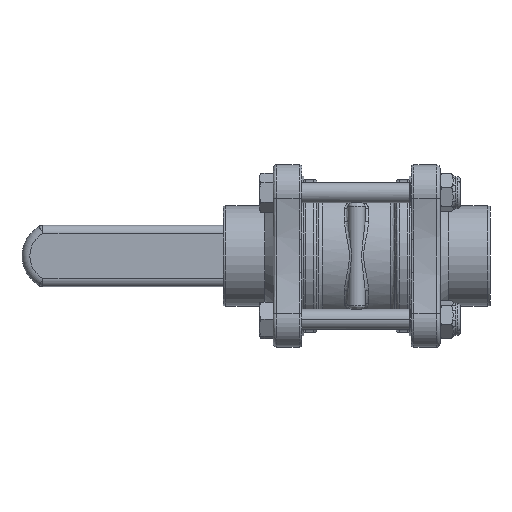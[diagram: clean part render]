
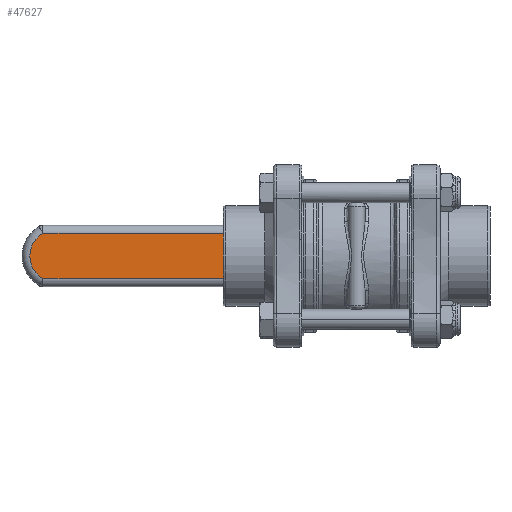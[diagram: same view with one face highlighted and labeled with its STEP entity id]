
A CAD part, front view. The second image highlights one B-rep face of the part: STEP entity #47627.
In plain terms, the highlighted planar face has unit normal (0, -1, 0).
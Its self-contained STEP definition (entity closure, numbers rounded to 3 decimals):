
#21930 = LINE ( 'NONE', #57054, #21937 ) ;
#21937 = VECTOR ( 'NONE', #57055, 1000. ) ;
#21940 = LINE ( 'NONE', #57046, #21948 ) ;
#21944 = CIRCLE ( 'NONE', #80501, 7.75 ) ;
#21948 = VECTOR ( 'NONE', #57045, 1000. ) ;
#36633 = EDGE_CURVE ( 'NONE', #64797, #64801, #42847, .T. ) ;
#42847 = LINE ( 'NONE', #45041, #42853 ) ;
#42853 = VECTOR ( 'NONE', #45037, 1000. ) ;
#43634 = FACE_OUTER_BOUND ( 'NONE', #47900, .T. ) ;
#45037 = DIRECTION ( 'NONE',  ( 0., 0., -1. ) ) ;
#45041 = CARTESIAN_POINT ( 'NONE',  ( 0., -2.5, -6.7 ) ) ;
#47417 = ORIENTED_EDGE ( 'NONE', *, *, #49298, .F. ) ;
#47419 = ORIENTED_EDGE ( 'NONE', *, *, #49299, .T. ) ;
#47421 = ORIENTED_EDGE ( 'NONE', *, *, #49296, .T. ) ;
#47423 = ORIENTED_EDGE ( 'NONE', *, *, #36633, .T. ) ;
#47627 = ADVANCED_FACE ( 'NONE', ( #43634 ), #70153, .F. ) ;
#47900 = EDGE_LOOP ( 'NONE', ( #47417, #47419, #47421, #47423 ) ) ;
#49296 = EDGE_CURVE ( 'NONE', #64820, #64797, #21930, .T. ) ;
#49298 = EDGE_CURVE ( 'NONE', #64821, #64801, #21940, .T. ) ;
#49299 = EDGE_CURVE ( 'NONE', #64821, #64820, #21944, .T. ) ;
#57045 = DIRECTION ( 'NONE',  ( -1., 0., 0. ) ) ;
#57046 = CARTESIAN_POINT ( 'NONE',  ( 62., -2.5, -6.7 ) ) ;
#57054 = CARTESIAN_POINT ( 'NONE',  ( 62., -2.5, 6.7 ) ) ;
#57055 = DIRECTION ( 'NONE',  ( -1., 0., 0. ) ) ;
#57063 = CARTESIAN_POINT ( 'NONE',  ( 51.95, -2.5, 0. ) ) ;
#57064 = DIRECTION ( 'NONE',  ( 0., -1., 0. ) ) ;
#57065 = DIRECTION ( 'NONE',  ( 0., 0., 1. ) ) ;
#59431 = CARTESIAN_POINT ( 'NONE',  ( 0., -2.5, 6.7 ) ) ;
#59439 = CARTESIAN_POINT ( 'NONE',  ( 0., -2.5, -6.7 ) ) ;
#59477 = CARTESIAN_POINT ( 'NONE',  ( 55.845, -2.5, 6.7 ) ) ;
#59479 = CARTESIAN_POINT ( 'NONE',  ( 55.845, -2.5, -6.7 ) ) ;
#64797 = VERTEX_POINT ( 'NONE', #59431 ) ;
#64801 = VERTEX_POINT ( 'NONE', #59439 ) ;
#64820 = VERTEX_POINT ( 'NONE', #59477 ) ;
#64821 = VERTEX_POINT ( 'NONE', #59479 ) ;
#70148 = CARTESIAN_POINT ( 'NONE',  ( 62., -2.5, -6.7 ) ) ;
#70153 = PLANE ( 'NONE',  #77182 ) ;
#70156 = DIRECTION ( 'NONE',  ( 0., 1., 0. ) ) ;
#70157 = DIRECTION ( 'NONE',  ( 0., 0., 1. ) ) ;
#77182 = AXIS2_PLACEMENT_3D ( 'NONE', #70148, #70156, #70157 ) ;
#80501 = AXIS2_PLACEMENT_3D ( 'NONE', #57063, #57064, #57065 ) ;
